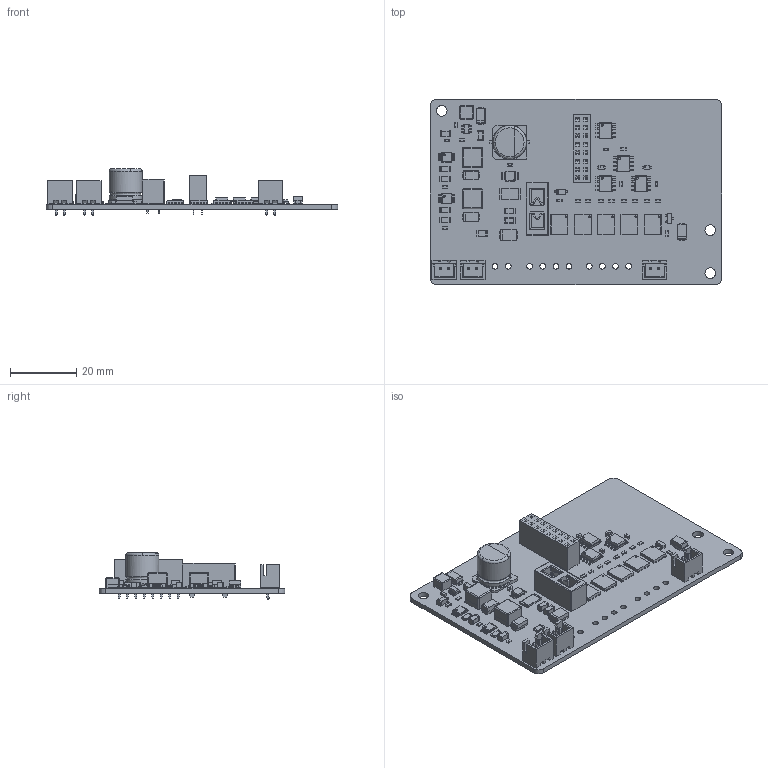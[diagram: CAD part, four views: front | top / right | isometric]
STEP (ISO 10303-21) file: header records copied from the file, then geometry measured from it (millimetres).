
FILE_DESCRIPTION(('KiCad electronic assembly'),'2;1');
FILE_NAME('AP1_Base.step','2026-10-06T22:33:29',('Pcbnew'),('Kicad'), 'Open CASCADE STEP processor 7.6','KiCad to STEP converter','Unknown' );
FILE_SCHEMA(('AUTOMOTIVE_DESIGN { 1 0 10303 214 1 1 1 1 }'));
Length unit declared in the file: millimetre
Products named in the file (24): AP1_Base 1; R_0603_1608Metric; R_1206_3216Metric; D_SMA; JST_XH_B2B-XH-A_1x02_P2.50mm_Vertical; SOIC-8_3.9x4.9mm_P1.27mm; D_SOD-323; D_SMB; MSOP-8-1EP_3x3mm_P0.65mm_EP1.5x1.8mm; C_1206_3216Metric; TDSON-8-1; PinSocket_2x08_P2.54mm_Vertical; Fuseholder_Blade_Mini_Keystone_3568; D_SOD-123; L_Changjiang_FNR6045S; SOT-23; SOT-23-6; C_0603_1608Metric; Fuse_1206_3216Metric; VSSOP-10_3x3mm_P0.5mm; CP_Elec_10x10.5; R_2512_6332Metric; L_Changjiang_FNR4030S; AP1_Base_PCB
Assembly tree (62 placements, depth 2):
  AP1_Base 1
    R_0603_1608Metric  x14
    R_1206_3216Metric  x2
    D_SMA  x4
    JST_XH_B2B-XH-A_1x02_P2.50mm_Vertical  x3
    SOIC-8_3.9x4.9mm_P1.27mm  x4
    D_SOD-323  x2
    D_SMB
    MSOP-8-1EP_3x3mm_P0.65mm_EP1.5x1.8mm  x2
    C_1206_3216Metric  x6
    TDSON-8-1  x5
    PinSocket_2x08_P2.54mm_Vertical
    Fuseholder_Blade_Mini_Keystone_3568
    D_SOD-123
    L_Changjiang_FNR6045S  x2
    SOT-23
    SOT-23-6
    C_0603_1608Metric  x6
    Fuse_1206_3216Metric
    VSSOP-10_3x3mm_P0.5mm
    CP_Elec_10x10.5
    R_2512_6332Metric
    L_Changjiang_FNR4030S
    AP1_Base_PCB
Bounding box: 88 x 56 x 13.9 mm (x, y, z)
Volume: 11021.4 mm3; surface area: 16095.3 mm2
Topology: 62 solids, 62 shells, 3859 faces, 10041 edges, 6385 vertices
Faces by surface type: plane 2662, cylinder 731, bspline 445, sphere 16, torus 4, revolution 1
Full cylindrical faces by diameter (mm): 0.25 x1, 0.5 x5, 0.6 x4, 1 x22, 1.7 x10, 1.78 x4, 3.2 x3, 10 x2
Entity records: 58497 total; most frequent: CARTESIAN_POINT 11353, ORIENTED_EDGE 10014, DIRECTION 8945, EDGE_CURVE 5005, LINE 4036, VECTOR 4036, VERTEX_POINT 3182, AXIS2_PLACEMENT_3D 2454
